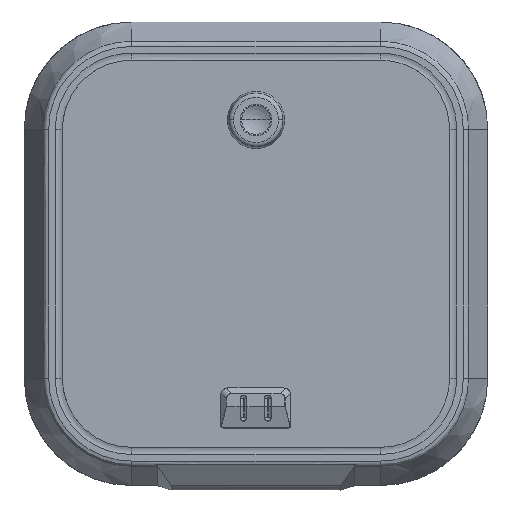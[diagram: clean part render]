
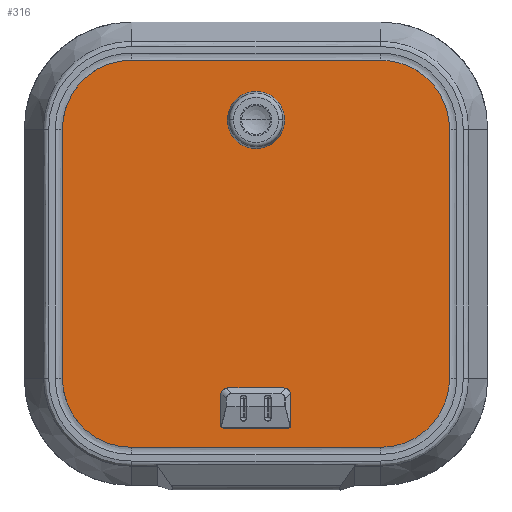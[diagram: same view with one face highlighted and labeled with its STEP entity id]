
A CAD part, front view. The second image highlights one B-rep face of the part: STEP entity #316.
In plain terms, the highlighted planar face has unit normal (0, -1, 0).
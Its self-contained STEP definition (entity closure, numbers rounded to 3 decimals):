
#1=CARTESIAN_POINT('',(135.3,0.,-41.8));
#2=DIRECTION('',(0.,-1.,0.));
#3=DIRECTION('',(1.,0.,0.));
#4=AXIS2_PLACEMENT_3D('',#1,#2,#3);
#6=CARTESIAN_POINT('',(135.3,0.,-41.8));
#7=DIRECTION('',(0.,-1.,0.));
#8=DIRECTION('',(-1.,0.,0.));
#9=AXIS2_PLACEMENT_3D('',#6,#7,#8);
#11=DIRECTION('',(1.,0.,0.));
#12=VECTOR('',#11,174.1);
#13=CARTESIAN_POINT('',(48.25,0.,0.));
#14=LINE('',#13,#12);
#15=CARTESIAN_POINT('',(222.35,0.,-48.25));
#16=DIRECTION('',(0.,1.,0.));
#17=DIRECTION('',(0.,0.,1.));
#18=AXIS2_PLACEMENT_3D('',#15,#16,#17);
#20=DIRECTION('',(0.,0.,-1.));
#21=VECTOR('',#20,174.1);
#22=CARTESIAN_POINT('',(270.6,0.,-48.25));
#23=LINE('',#22,#21);
#24=CARTESIAN_POINT('',(222.35,0.,-222.35));
#25=DIRECTION('',(0.,1.,0.));
#26=DIRECTION('',(1.,0.,0.));
#27=AXIS2_PLACEMENT_3D('',#24,#25,#26);
#29=DIRECTION('',(-1.,0.,0.));
#30=VECTOR('',#29,174.1);
#31=CARTESIAN_POINT('',(222.35,0.,-270.6));
#32=LINE('',#31,#30);
#33=CARTESIAN_POINT('',(48.25,0.,-222.35));
#34=DIRECTION('',(0.,1.,0.));
#35=DIRECTION('',(0.,0.,-1.));
#36=AXIS2_PLACEMENT_3D('',#33,#34,#35);
#38=DIRECTION('',(0.,0.,1.));
#39=VECTOR('',#38,174.1);
#40=CARTESIAN_POINT('',(0.,0.,-222.35));
#41=LINE('',#40,#39);
#42=CARTESIAN_POINT('',(48.25,0.,-48.25));
#43=DIRECTION('',(0.,1.,0.));
#44=DIRECTION('',(-1.,0.,0.));
#45=AXIS2_PLACEMENT_3D('',#42,#43,#44);
#47=CARTESIAN_POINT('',(149.8,0.,-239.6));
#48=DIRECTION('',(0.,-1.,0.));
#49=DIRECTION('',(0.,0.,-1.));
#50=AXIS2_PLACEMENT_3D('',#47,#48,#49);
#52=DIRECTION('',(-1.,0.,0.));
#53=VECTOR('',#52,29.);
#54=CARTESIAN_POINT('',(149.8,0.,-234.1));
#55=LINE('',#54,#53);
#56=CARTESIAN_POINT('',(120.8,0.,-239.6));
#57=DIRECTION('',(0.,-1.,0.));
#58=DIRECTION('',(0.,0.,1.));
#59=AXIS2_PLACEMENT_3D('',#56,#57,#58);
#61=DIRECTION('',(1.,0.,0.));
#62=VECTOR('',#61,29.);
#63=CARTESIAN_POINT('',(120.8,0.,-245.1));
#64=LINE('',#63,#62);
#213=CARTESIAN_POINT('',(142.8,0.,-41.8));
#214=CARTESIAN_POINT('',(127.8,0.,-41.8));
#215=VERTEX_POINT('',#213);
#216=VERTEX_POINT('',#214);
#217=CARTESIAN_POINT('',(48.25,0.,0.));
#218=CARTESIAN_POINT('',(222.35,0.,0.));
#219=VERTEX_POINT('',#217);
#220=VERTEX_POINT('',#218);
#221=CARTESIAN_POINT('',(270.6,0.,-48.25));
#222=VERTEX_POINT('',#221);
#223=CARTESIAN_POINT('',(270.6,0.,-222.35));
#224=VERTEX_POINT('',#223);
#225=CARTESIAN_POINT('',(222.35,0.,-270.6));
#226=VERTEX_POINT('',#225);
#227=CARTESIAN_POINT('',(48.25,0.,-270.6));
#228=VERTEX_POINT('',#227);
#229=CARTESIAN_POINT('',(0.,0.,-222.35));
#230=VERTEX_POINT('',#229);
#231=CARTESIAN_POINT('',(0.,0.,-48.25));
#232=VERTEX_POINT('',#231);
#233=CARTESIAN_POINT('',(149.8,0.,-245.1));
#234=CARTESIAN_POINT('',(149.8,0.,-234.1));
#235=VERTEX_POINT('',#233);
#236=VERTEX_POINT('',#234);
#237=CARTESIAN_POINT('',(120.8,0.,-234.1));
#238=VERTEX_POINT('',#237);
#239=CARTESIAN_POINT('',(120.8,0.,-245.1));
#240=VERTEX_POINT('',#239);
#277=CARTESIAN_POINT('',(0.,0.,0.));
#278=DIRECTION('',(0.,1.,0.));
#279=DIRECTION('',(1.,0.,0.));
#280=AXIS2_PLACEMENT_3D('',#277,#278,#279);
#281=PLANE('',#280);
#283=ORIENTED_EDGE('',*,*,#282,.T.);
#285=ORIENTED_EDGE('',*,*,#284,.T.);
#287=ORIENTED_EDGE('',*,*,#286,.T.);
#289=ORIENTED_EDGE('',*,*,#288,.T.);
#291=ORIENTED_EDGE('',*,*,#290,.T.);
#293=ORIENTED_EDGE('',*,*,#292,.T.);
#295=ORIENTED_EDGE('',*,*,#294,.T.);
#297=ORIENTED_EDGE('',*,*,#296,.T.);
#298=EDGE_LOOP('',(#283,#285,#287,#289,#291,#293,#295,#297));
#299=FACE_OUTER_BOUND('',#298,.F.);
#301=ORIENTED_EDGE('',*,*,#300,.T.);
#303=ORIENTED_EDGE('',*,*,#302,.T.);
#304=EDGE_LOOP('',(#301,#303));
#305=FACE_BOUND('',#304,.F.);
#307=ORIENTED_EDGE('',*,*,#306,.T.);
#309=ORIENTED_EDGE('',*,*,#308,.T.);
#311=ORIENTED_EDGE('',*,*,#310,.T.);
#313=ORIENTED_EDGE('',*,*,#312,.T.);
#314=EDGE_LOOP('',(#307,#309,#311,#313));
#315=FACE_BOUND('',#314,.F.);
#316=ADVANCED_FACE('',(#299,#305,#315),#281,.F.);
#5=CIRCLE('',#4,7.5);
#10=CIRCLE('',#9,7.5);
#19=CIRCLE('',#18,48.25);
#28=CIRCLE('',#27,48.25);
#37=CIRCLE('',#36,48.25);
#46=CIRCLE('',#45,48.25);
#51=CIRCLE('',#50,5.5);
#60=CIRCLE('',#59,5.5);
#282=EDGE_CURVE('',#219,#220,#14,.T.);
#284=EDGE_CURVE('',#220,#222,#19,.T.);
#286=EDGE_CURVE('',#222,#224,#23,.T.);
#288=EDGE_CURVE('',#224,#226,#28,.T.);
#290=EDGE_CURVE('',#226,#228,#32,.T.);
#292=EDGE_CURVE('',#228,#230,#37,.T.);
#294=EDGE_CURVE('',#230,#232,#41,.T.);
#296=EDGE_CURVE('',#232,#219,#46,.T.);
#300=EDGE_CURVE('',#215,#216,#5,.T.);
#302=EDGE_CURVE('',#216,#215,#10,.T.);
#306=EDGE_CURVE('',#235,#236,#51,.T.);
#308=EDGE_CURVE('',#236,#238,#55,.T.);
#310=EDGE_CURVE('',#238,#240,#60,.T.);
#312=EDGE_CURVE('',#240,#235,#64,.T.);
